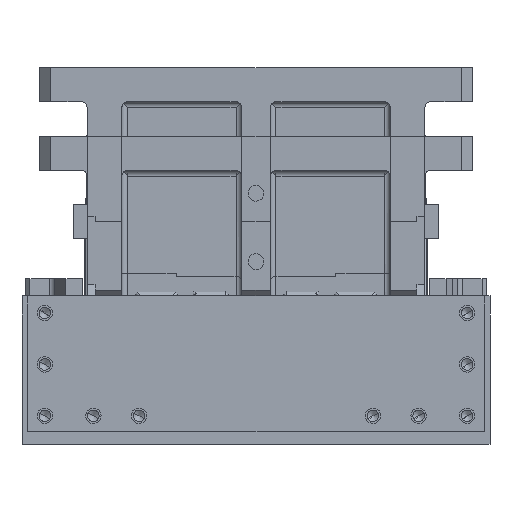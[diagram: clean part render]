
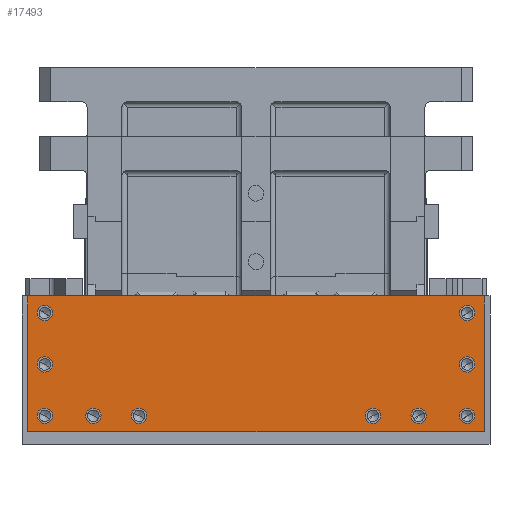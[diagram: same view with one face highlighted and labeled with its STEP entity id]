
A CAD part, left-side view. The second image highlights one B-rep face of the part: STEP entity #17493.
In plain terms, the highlighted planar face has unit normal (-1, 0, 0).
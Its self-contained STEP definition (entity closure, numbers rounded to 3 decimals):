
#15136=CARTESIAN_POINT('Vertex',(-12.,200.,130.)) ;
#15139=CARTESIAN_POINT('Line Origine',(-12.,0.,130.)) ;
#15143=CARTESIAN_POINT('Vertex',(-12.,-200.,130.)) ;
#17270=CARTESIAN_POINT('Vertex',(-12.,148.424,28.236)) ;
#17277=CARTESIAN_POINT('Vertex',(-12.,136.576,21.764)) ;
#17280=CARTESIAN_POINT('Axis2P3D Location',(-12.,142.5,25.)) ;
#17292=CARTESIAN_POINT('Axis2P3D Location',(-12.,0.,0.)) ;
#17297=CARTESIAN_POINT('Line Origine',(-12.,200.,70.5)) ;
#17301=CARTESIAN_POINT('Vertex',(-12.,200.,11.)) ;
#17304=CARTESIAN_POINT('Line Origine',(-12.,0.,11.)) ;
#17308=CARTESIAN_POINT('Vertex',(-12.,-200.,11.)) ;
#17311=CARTESIAN_POINT('Line Origine',(-12.,-200.,70.5)) ;
#17322=CARTESIAN_POINT('Axis2P3D Location',(-12.,-185.,115.)) ;
#17326=CARTESIAN_POINT('Vertex',(-12.,-179.076,111.764)) ;
#17328=CARTESIAN_POINT('Vertex',(-12.,-190.924,118.236)) ;
#17331=CARTESIAN_POINT('Axis2P3D Location',(-12.,-185.,115.)) ;
#17340=CARTESIAN_POINT('Axis2P3D Location',(-12.,-142.5,25.)) ;
#17344=CARTESIAN_POINT('Vertex',(-12.,-148.424,28.236)) ;
#17346=CARTESIAN_POINT('Vertex',(-12.,-136.576,21.764)) ;
#17349=CARTESIAN_POINT('Axis2P3D Location',(-12.,-142.5,25.)) ;
#17358=CARTESIAN_POINT('Axis2P3D Location',(-12.,-102.5,25.)) ;
#17362=CARTESIAN_POINT('Vertex',(-12.,-96.576,21.764)) ;
#17364=CARTESIAN_POINT('Vertex',(-12.,-108.424,28.236)) ;
#17367=CARTESIAN_POINT('Axis2P3D Location',(-12.,-102.5,25.)) ;
#17376=CARTESIAN_POINT('Axis2P3D Location',(-12.,-185.,70.)) ;
#17380=CARTESIAN_POINT('Vertex',(-12.,-190.924,73.236)) ;
#17382=CARTESIAN_POINT('Vertex',(-12.,-179.076,66.764)) ;
#17385=CARTESIAN_POINT('Axis2P3D Location',(-12.,-185.,70.)) ;
#17394=CARTESIAN_POINT('Axis2P3D Location',(-12.,-185.,25.)) ;
#17398=CARTESIAN_POINT('Vertex',(-12.,-190.924,28.236)) ;
#17400=CARTESIAN_POINT('Vertex',(-12.,-179.076,21.764)) ;
#17403=CARTESIAN_POINT('Axis2P3D Location',(-12.,-185.,25.)) ;
#17412=CARTESIAN_POINT('Axis2P3D Location',(-12.,185.,115.)) ;
#17416=CARTESIAN_POINT('Vertex',(-12.,179.076,111.764)) ;
#17418=CARTESIAN_POINT('Vertex',(-12.,190.924,118.236)) ;
#17421=CARTESIAN_POINT('Axis2P3D Location',(-12.,185.,115.)) ;
#17430=CARTESIAN_POINT('Axis2P3D Location',(-12.,185.,70.)) ;
#17434=CARTESIAN_POINT('Vertex',(-12.,179.076,66.764)) ;
#17436=CARTESIAN_POINT('Vertex',(-12.,190.924,73.236)) ;
#17439=CARTESIAN_POINT('Axis2P3D Location',(-12.,185.,70.)) ;
#17448=CARTESIAN_POINT('Axis2P3D Location',(-12.,185.,25.)) ;
#17452=CARTESIAN_POINT('Vertex',(-12.,190.924,28.236)) ;
#17454=CARTESIAN_POINT('Vertex',(-12.,179.076,21.764)) ;
#17457=CARTESIAN_POINT('Axis2P3D Location',(-12.,185.,25.)) ;
#17466=CARTESIAN_POINT('Axis2P3D Location',(-12.,142.5,25.)) ;
#17475=CARTESIAN_POINT('Axis2P3D Location',(-12.,102.5,25.)) ;
#17479=CARTESIAN_POINT('Vertex',(-12.,96.576,21.764)) ;
#17481=CARTESIAN_POINT('Vertex',(-12.,108.424,28.236)) ;
#17484=CARTESIAN_POINT('Axis2P3D Location',(-12.,102.5,25.)) ;
#15141=VECTOR('Line Direction',#15140,1.) ;
#17299=VECTOR('Line Direction',#17298,1.) ;
#17306=VECTOR('Line Direction',#17305,1.) ;
#17313=VECTOR('Line Direction',#17312,1.) ;
#15140=DIRECTION('Vector Direction',(0.,-1.,0.)) ;
#17281=DIRECTION('Axis2P3D Direction',(1.,0.,0.)) ;
#17293=DIRECTION('Axis2P3D Direction',(-1.,-0.,0.)) ;
#17294=DIRECTION('Axis2P3D XDirection',(0.,-1.,0.)) ;
#17298=DIRECTION('Vector Direction',(0.,0.,-1.)) ;
#17305=DIRECTION('Vector Direction',(0.,1.,0.)) ;
#17312=DIRECTION('Vector Direction',(0.,0.,-1.)) ;
#17323=DIRECTION('Axis2P3D Direction',(-1.,-0.,0.)) ;
#17332=DIRECTION('Axis2P3D Direction',(-1.,-0.,0.)) ;
#17341=DIRECTION('Axis2P3D Direction',(-1.,-0.,0.)) ;
#17350=DIRECTION('Axis2P3D Direction',(-1.,-0.,0.)) ;
#17359=DIRECTION('Axis2P3D Direction',(-1.,-0.,0.)) ;
#17368=DIRECTION('Axis2P3D Direction',(-1.,-0.,0.)) ;
#17377=DIRECTION('Axis2P3D Direction',(-1.,-0.,0.)) ;
#17386=DIRECTION('Axis2P3D Direction',(-1.,-0.,0.)) ;
#17395=DIRECTION('Axis2P3D Direction',(-1.,-0.,0.)) ;
#17404=DIRECTION('Axis2P3D Direction',(-1.,-0.,0.)) ;
#17413=DIRECTION('Axis2P3D Direction',(-1.,-0.,0.)) ;
#17422=DIRECTION('Axis2P3D Direction',(-1.,-0.,0.)) ;
#17431=DIRECTION('Axis2P3D Direction',(-1.,-0.,0.)) ;
#17440=DIRECTION('Axis2P3D Direction',(-1.,-0.,0.)) ;
#17449=DIRECTION('Axis2P3D Direction',(-1.,-0.,0.)) ;
#17458=DIRECTION('Axis2P3D Direction',(-1.,-0.,0.)) ;
#17467=DIRECTION('Axis2P3D Direction',(-1.,-0.,0.)) ;
#17476=DIRECTION('Axis2P3D Direction',(-1.,-0.,0.)) ;
#17485=DIRECTION('Axis2P3D Direction',(-1.,-0.,0.)) ;
#17282=AXIS2_PLACEMENT_3D('Circle Axis2P3D',#17280,#17281,$) ;
#17295=AXIS2_PLACEMENT_3D('Plane Axis2P3D',#17292,#17293,#17294) ;
#17324=AXIS2_PLACEMENT_3D('Circle Axis2P3D',#17322,#17323,$) ;
#17333=AXIS2_PLACEMENT_3D('Circle Axis2P3D',#17331,#17332,$) ;
#17342=AXIS2_PLACEMENT_3D('Circle Axis2P3D',#17340,#17341,$) ;
#17351=AXIS2_PLACEMENT_3D('Circle Axis2P3D',#17349,#17350,$) ;
#17360=AXIS2_PLACEMENT_3D('Circle Axis2P3D',#17358,#17359,$) ;
#17369=AXIS2_PLACEMENT_3D('Circle Axis2P3D',#17367,#17368,$) ;
#17378=AXIS2_PLACEMENT_3D('Circle Axis2P3D',#17376,#17377,$) ;
#17387=AXIS2_PLACEMENT_3D('Circle Axis2P3D',#17385,#17386,$) ;
#17396=AXIS2_PLACEMENT_3D('Circle Axis2P3D',#17394,#17395,$) ;
#17405=AXIS2_PLACEMENT_3D('Circle Axis2P3D',#17403,#17404,$) ;
#17414=AXIS2_PLACEMENT_3D('Circle Axis2P3D',#17412,#17413,$) ;
#17423=AXIS2_PLACEMENT_3D('Circle Axis2P3D',#17421,#17422,$) ;
#17432=AXIS2_PLACEMENT_3D('Circle Axis2P3D',#17430,#17431,$) ;
#17441=AXIS2_PLACEMENT_3D('Circle Axis2P3D',#17439,#17440,$) ;
#17450=AXIS2_PLACEMENT_3D('Circle Axis2P3D',#17448,#17449,$) ;
#17459=AXIS2_PLACEMENT_3D('Circle Axis2P3D',#17457,#17458,$) ;
#17468=AXIS2_PLACEMENT_3D('Circle Axis2P3D',#17466,#17467,$) ;
#17477=AXIS2_PLACEMENT_3D('Circle Axis2P3D',#17475,#17476,$) ;
#17486=AXIS2_PLACEMENT_3D('Circle Axis2P3D',#17484,#17485,$) ;
#15142=LINE('Line',#15139,#15141) ;
#17300=LINE('Line',#17297,#17299) ;
#17307=LINE('Line',#17304,#17306) ;
#17314=LINE('Line',#17311,#17313) ;
#17283=CIRCLE('generated circle',#17282,6.75) ;
#17325=CIRCLE('generated circle',#17324,6.75) ;
#17334=CIRCLE('generated circle',#17333,6.75) ;
#17343=CIRCLE('generated circle',#17342,6.75) ;
#17352=CIRCLE('generated circle',#17351,6.75) ;
#17361=CIRCLE('generated circle',#17360,6.75) ;
#17370=CIRCLE('generated circle',#17369,6.75) ;
#17379=CIRCLE('generated circle',#17378,6.75) ;
#17388=CIRCLE('generated circle',#17387,6.75) ;
#17397=CIRCLE('generated circle',#17396,6.75) ;
#17406=CIRCLE('generated circle',#17405,6.75) ;
#17415=CIRCLE('generated circle',#17414,6.75) ;
#17424=CIRCLE('generated circle',#17423,6.75) ;
#17433=CIRCLE('generated circle',#17432,6.75) ;
#17442=CIRCLE('generated circle',#17441,6.75) ;
#17451=CIRCLE('generated circle',#17450,6.75) ;
#17460=CIRCLE('generated circle',#17459,6.75) ;
#17469=CIRCLE('generated circle',#17468,6.75) ;
#17478=CIRCLE('generated circle',#17477,6.75) ;
#17487=CIRCLE('generated circle',#17486,6.75) ;
#17296=PLANE('',#17295) ;
#17339=FACE_BOUND('',#17336,.T.) ;
#17357=FACE_BOUND('',#17354,.T.) ;
#17375=FACE_BOUND('',#17372,.T.) ;
#17393=FACE_BOUND('',#17390,.T.) ;
#17411=FACE_BOUND('',#17408,.T.) ;
#17429=FACE_BOUND('',#17426,.T.) ;
#17447=FACE_BOUND('',#17444,.T.) ;
#17465=FACE_BOUND('',#17462,.T.) ;
#17474=FACE_BOUND('',#17471,.T.) ;
#17492=FACE_BOUND('',#17489,.T.) ;
#15145=EDGE_CURVE('',#15137,#15144,#15142,.T.) ;
#17284=EDGE_CURVE('',#17278,#17271,#17283,.F.) ;
#17303=EDGE_CURVE('',#15137,#17302,#17300,.T.) ;
#17310=EDGE_CURVE('',#17309,#17302,#17307,.T.) ;
#17315=EDGE_CURVE('',#15144,#17309,#17314,.T.) ;
#17330=EDGE_CURVE('',#17327,#17329,#17325,.F.) ;
#17335=EDGE_CURVE('',#17329,#17327,#17334,.F.) ;
#17348=EDGE_CURVE('',#17345,#17347,#17343,.F.) ;
#17353=EDGE_CURVE('',#17347,#17345,#17352,.F.) ;
#17366=EDGE_CURVE('',#17363,#17365,#17361,.F.) ;
#17371=EDGE_CURVE('',#17365,#17363,#17370,.F.) ;
#17384=EDGE_CURVE('',#17381,#17383,#17379,.F.) ;
#17389=EDGE_CURVE('',#17383,#17381,#17388,.F.) ;
#17402=EDGE_CURVE('',#17399,#17401,#17397,.F.) ;
#17407=EDGE_CURVE('',#17401,#17399,#17406,.F.) ;
#17420=EDGE_CURVE('',#17417,#17419,#17415,.T.) ;
#17425=EDGE_CURVE('',#17419,#17417,#17424,.T.) ;
#17438=EDGE_CURVE('',#17435,#17437,#17433,.T.) ;
#17443=EDGE_CURVE('',#17437,#17435,#17442,.T.) ;
#17456=EDGE_CURVE('',#17453,#17455,#17451,.T.) ;
#17461=EDGE_CURVE('',#17455,#17453,#17460,.T.) ;
#17470=EDGE_CURVE('',#17271,#17278,#17469,.T.) ;
#17483=EDGE_CURVE('',#17480,#17482,#17478,.T.) ;
#17488=EDGE_CURVE('',#17482,#17480,#17487,.T.) ;
#17316=EDGE_LOOP('',(#17317,#17318,#17319,#17320)) ;
#17336=EDGE_LOOP('',(#17337,#17338)) ;
#17354=EDGE_LOOP('',(#17355,#17356)) ;
#17372=EDGE_LOOP('',(#17373,#17374)) ;
#17390=EDGE_LOOP('',(#17391,#17392)) ;
#17408=EDGE_LOOP('',(#17409,#17410)) ;
#17426=EDGE_LOOP('',(#17427,#17428)) ;
#17444=EDGE_LOOP('',(#17445,#17446)) ;
#17462=EDGE_LOOP('',(#17463,#17464)) ;
#17471=EDGE_LOOP('',(#17472,#17473)) ;
#17489=EDGE_LOOP('',(#17490,#17491)) ;
#17317=ORIENTED_EDGE('',*,*,#17303,.T.) ;
#17318=ORIENTED_EDGE('',*,*,#17310,.F.) ;
#17319=ORIENTED_EDGE('',*,*,#17315,.F.) ;
#17320=ORIENTED_EDGE('',*,*,#15145,.F.) ;
#17337=ORIENTED_EDGE('',*,*,#17330,.T.) ;
#17338=ORIENTED_EDGE('',*,*,#17335,.T.) ;
#17355=ORIENTED_EDGE('',*,*,#17348,.T.) ;
#17356=ORIENTED_EDGE('',*,*,#17353,.T.) ;
#17373=ORIENTED_EDGE('',*,*,#17366,.T.) ;
#17374=ORIENTED_EDGE('',*,*,#17371,.T.) ;
#17391=ORIENTED_EDGE('',*,*,#17384,.T.) ;
#17392=ORIENTED_EDGE('',*,*,#17389,.T.) ;
#17409=ORIENTED_EDGE('',*,*,#17402,.T.) ;
#17410=ORIENTED_EDGE('',*,*,#17407,.T.) ;
#17427=ORIENTED_EDGE('',*,*,#17420,.F.) ;
#17428=ORIENTED_EDGE('',*,*,#17425,.F.) ;
#17445=ORIENTED_EDGE('',*,*,#17438,.F.) ;
#17446=ORIENTED_EDGE('',*,*,#17443,.F.) ;
#17463=ORIENTED_EDGE('',*,*,#17456,.F.) ;
#17464=ORIENTED_EDGE('',*,*,#17461,.F.) ;
#17472=ORIENTED_EDGE('',*,*,#17470,.F.) ;
#17473=ORIENTED_EDGE('',*,*,#17284,.F.) ;
#17490=ORIENTED_EDGE('',*,*,#17483,.F.) ;
#17491=ORIENTED_EDGE('',*,*,#17488,.F.) ;
#15137=VERTEX_POINT('',#15136) ;
#15144=VERTEX_POINT('',#15143) ;
#17271=VERTEX_POINT('',#17270) ;
#17278=VERTEX_POINT('',#17277) ;
#17302=VERTEX_POINT('',#17301) ;
#17309=VERTEX_POINT('',#17308) ;
#17327=VERTEX_POINT('',#17326) ;
#17329=VERTEX_POINT('',#17328) ;
#17345=VERTEX_POINT('',#17344) ;
#17347=VERTEX_POINT('',#17346) ;
#17363=VERTEX_POINT('',#17362) ;
#17365=VERTEX_POINT('',#17364) ;
#17381=VERTEX_POINT('',#17380) ;
#17383=VERTEX_POINT('',#17382) ;
#17399=VERTEX_POINT('',#17398) ;
#17401=VERTEX_POINT('',#17400) ;
#17417=VERTEX_POINT('',#17416) ;
#17419=VERTEX_POINT('',#17418) ;
#17435=VERTEX_POINT('',#17434) ;
#17437=VERTEX_POINT('',#17436) ;
#17453=VERTEX_POINT('',#17452) ;
#17455=VERTEX_POINT('',#17454) ;
#17480=VERTEX_POINT('',#17479) ;
#17482=VERTEX_POINT('',#17481) ;
#17493=ADVANCED_FACE('base',(#17321,#17339,#17357,#17375,#17393,#17411,#17429,#17447,#17465,#17474,#17492),#17296,.T.) ;
#17321=FACE_OUTER_BOUND('',#17316,.T.) ;
